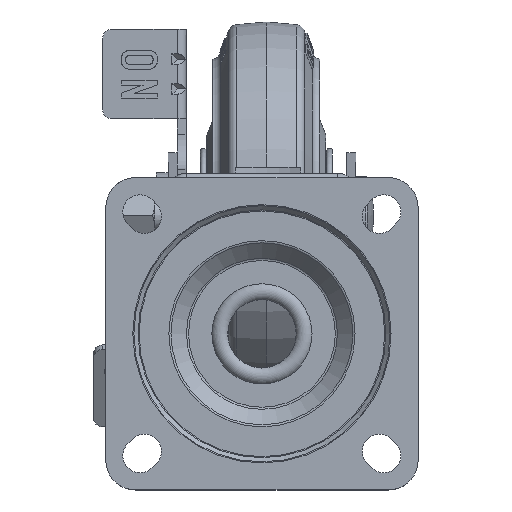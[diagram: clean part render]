
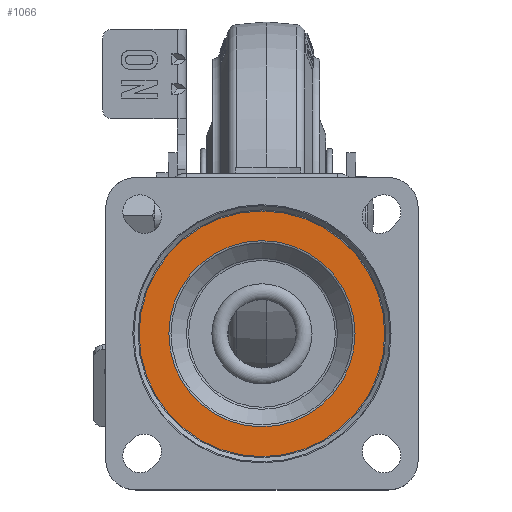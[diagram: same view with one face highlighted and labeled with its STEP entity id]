
A CAD part, top view. The second image highlights one B-rep face of the part: STEP entity #1066.
In plain terms, the highlighted planar face has unit normal (0, 0, 1).
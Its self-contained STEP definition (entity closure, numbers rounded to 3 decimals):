
#1066 = ADVANCED_FACE( '', ( #2278, #2279 ), #2280, .T. );
#2278 = FACE_BOUND( '', #4674, .T. );
#2279 = FACE_OUTER_BOUND( '', #4675, .T. );
#2280 = PLANE( '', #4676 );
#4674 = EDGE_LOOP( '', ( #13858 ) );
#4675 = EDGE_LOOP( '', ( #13859 ) );
#4676 = AXIS2_PLACEMENT_3D( '', #13860, #13861, #13862 );
#13858 = ORIENTED_EDGE( '', *, *, #20762, .T. );
#13859 = ORIENTED_EDGE( '', *, *, #20763, .F. );
#13860 = CARTESIAN_POINT( '', ( 0., 1.293, 110.3 ) );
#13861 = DIRECTION( '', ( 0., 0., 1. ) );
#13862 = DIRECTION( '', ( 1., 0., 0. ) );
#20762 = EDGE_CURVE( '', #23024, #23024, #23025, .T. );
#20763 = EDGE_CURVE( '', #23026, #23026, #23027, .T. );
#23024 = VERTEX_POINT( '', #26819 );
#23025 = CIRCLE( '', #26820, 31.286 );
#23026 = VERTEX_POINT( '', #26821 );
#23027 = CIRCLE( '', #26822, 41.293 );
#26819 = CARTESIAN_POINT( '', ( -31.286, -40., 110.3 ) );
#26820 = AXIS2_PLACEMENT_3D( '', #38911, #38912, #38913 );
#26821 = CARTESIAN_POINT( '', ( -41.293, -40., 110.3 ) );
#26822 = AXIS2_PLACEMENT_3D( '', #38914, #38915, #38916 );
#38911 = CARTESIAN_POINT( '', ( 0., -40., 110.3 ) );
#38912 = DIRECTION( '', ( 0., 0., -1. ) );
#38913 = DIRECTION( '', ( -1., 0., 0. ) );
#38914 = CARTESIAN_POINT( '', ( 0., -40., 110.3 ) );
#38915 = DIRECTION( '', ( 0., 0., -1. ) );
#38916 = DIRECTION( '', ( -1., 0., 0. ) );
